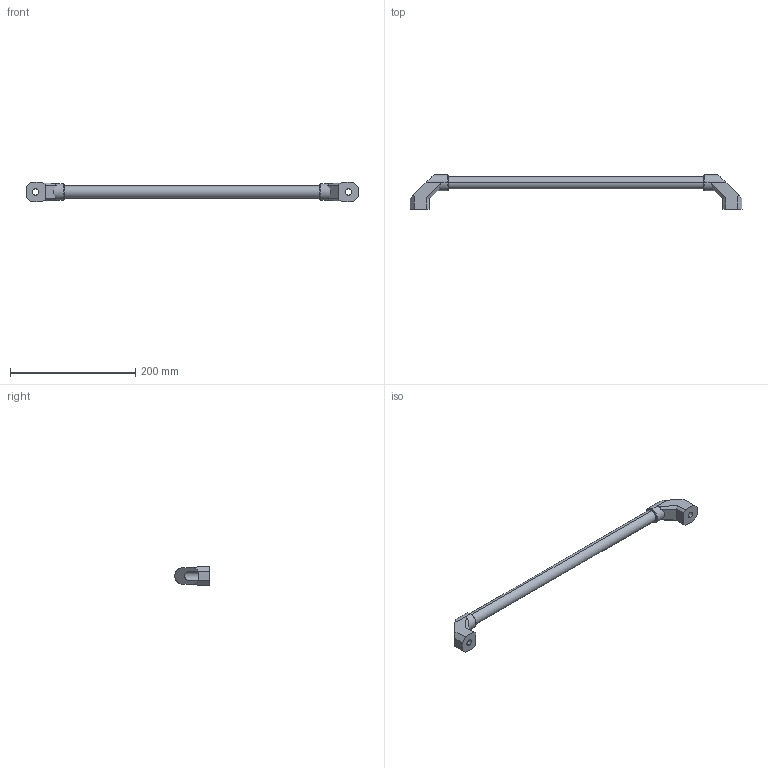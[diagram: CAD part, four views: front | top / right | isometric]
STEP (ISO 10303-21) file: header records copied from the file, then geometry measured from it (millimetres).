
FILE_DESCRIPTION (( 'STEP AP214' ), '1' );
FILE_NAME ('4.441.004.STEP', '2012-01-18T11:04:15', ( '£ukasz Cieæka' ), ( '' ), 'SwSTEP 2.0', 'SolidWorks 2010', '' );
FILE_SCHEMA (( 'AUTOMOTIVE_DESIGN' ));
Length unit declared in the file: millimetre
Products named in the file (1): 4.441.004
Bounding box: 530.4 x 55.4 x 31 mm (x, y, z)
Volume: 204459.9 mm3; surface area: 44014.9 mm2
Topology: 3 solids, 3 shells, 70 faces, 174 edges, 112 vertices
Faces by surface type: plane 54, cylinder 12, torus 4
Entity records: 2471 total; most frequent: CARTESIAN_POINT 387, ORIENTED_EDGE 348, DIRECTION 332, EDGE_CURVE 174, VECTOR 138, LINE 138, VERTEX_POINT 112, AXIS2_PLACEMENT_3D 97
